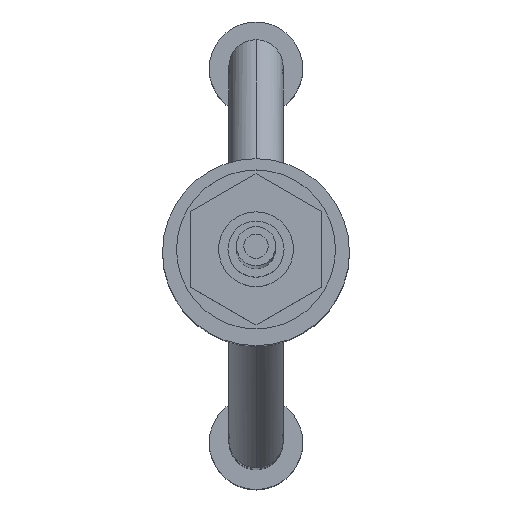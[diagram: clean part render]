
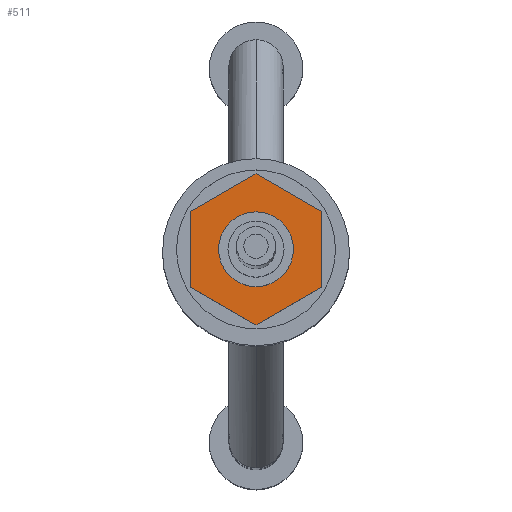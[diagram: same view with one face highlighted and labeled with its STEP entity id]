
A CAD part, top view. The second image highlights one B-rep face of the part: STEP entity #511.
In plain terms, the highlighted planar face has unit normal (0, 0, 1) as drawn and (-1, 0, 0) by its records, which use the part's own axes.
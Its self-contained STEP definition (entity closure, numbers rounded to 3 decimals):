
#486 = ORIENTED_EDGE ( 'NONE', *, *, #487, .T. ) ;
#487 = EDGE_CURVE ( 'NONE', #516, #517, #1680, .T. ) ;
#488 = ORIENTED_EDGE ( 'NONE', *, *, #489, .T. ) ;
#489 = EDGE_CURVE ( 'NONE', #517, #490, #1676, .T. ) ;
#490 = VERTEX_POINT ( 'NONE', #1672 ) ;
#491 = ORIENTED_EDGE ( 'NONE', *, *, #492, .T. ) ;
#492 = EDGE_CURVE ( 'NONE', #490, #493, #1671, .T. ) ;
#493 = VERTEX_POINT ( 'NONE', #1667 ) ;
#494 = ORIENTED_EDGE ( 'NONE', *, *, #495, .T. ) ;
#495 = EDGE_CURVE ( 'NONE', #493, #496, #1666, .T. ) ;
#496 = VERTEX_POINT ( 'NONE', #1662 ) ;
#497 = ORIENTED_EDGE ( 'NONE', *, *, #498, .T. ) ;
#498 = EDGE_CURVE ( 'NONE', #496, #515, #1661, .T. ) ;
#499 = EDGE_LOOP ( 'NONE', ( #553, #554 ) ) ;
#500 = EDGE_CURVE ( 'NONE', #501, #502, #1657, .T. ) ;
#501 = VERTEX_POINT ( 'NONE', #1718 ) ;
#502 = VERTEX_POINT ( 'NONE', #1717 ) ;
#511 = ADVANCED_FACE ( 'NONE', ( #1701, #1700 ), #1699, .T. ) ;
#512 = EDGE_LOOP ( 'NONE', ( #513, #486, #488, #491, #494, #497 ) ) ;
#513 = ORIENTED_EDGE ( 'NONE', *, *, #514, .T. ) ;
#514 = EDGE_CURVE ( 'NONE', #515, #516, #1694, .T. ) ;
#515 = VERTEX_POINT ( 'NONE', #1690 ) ;
#516 = VERTEX_POINT ( 'NONE', #1689 ) ;
#517 = VERTEX_POINT ( 'NONE', #1688 ) ;
#553 = ORIENTED_EDGE ( 'NONE', *, *, #500, .F. ) ;
#554 = ORIENTED_EDGE ( 'NONE', *, *, #555, .F. ) ;
#555 = EDGE_CURVE ( 'NONE', #502, #501, #1766, .T. ) ;
#1655 = CARTESIAN_POINT ( 'NONE',  ( 7.6, 0., 0. ) ) ;
#1656 = AXIS2_PLACEMENT_3D ( 'NONE', #1655, #1720, #1719 ) ;
#1657 = CIRCLE ( 'NONE', #1656, 2. ) ;
#1658 = DIRECTION ( 'NONE',  ( 0., 1., 0. ) ) ;
#1659 = VECTOR ( 'NONE', #1658, 1000. ) ;
#1660 = CARTESIAN_POINT ( 'NONE',  ( 7.6, -2.021, 3.5 ) ) ;
#1661 = LINE ( 'NONE', #1660, #1659 ) ;
#1662 = CARTESIAN_POINT ( 'NONE',  ( 7.6, -2.021, 3.5 ) ) ;
#1663 = DIRECTION ( 'NONE',  ( 0., 0.5, 0.866 ) ) ;
#1664 = VECTOR ( 'NONE', #1663, 1000. ) ;
#1665 = CARTESIAN_POINT ( 'NONE',  ( 7.6, -4.041, 0. ) ) ;
#1666 = LINE ( 'NONE', #1665, #1664 ) ;
#1667 = CARTESIAN_POINT ( 'NONE',  ( 7.6, -4.041, 0. ) ) ;
#1668 = DIRECTION ( 'NONE',  ( 0., -0.5, 0.866 ) ) ;
#1669 = VECTOR ( 'NONE', #1668, 1000. ) ;
#1670 = CARTESIAN_POINT ( 'NONE',  ( 7.6, -2.021, -3.5 ) ) ;
#1671 = LINE ( 'NONE', #1670, #1669 ) ;
#1672 = CARTESIAN_POINT ( 'NONE',  ( 7.6, -2.021, -3.5 ) ) ;
#1673 = DIRECTION ( 'NONE',  ( 0., -1., 0. ) ) ;
#1674 = VECTOR ( 'NONE', #1673, 1000. ) ;
#1675 = CARTESIAN_POINT ( 'NONE',  ( 7.6, 2.021, -3.5 ) ) ;
#1676 = LINE ( 'NONE', #1675, #1674 ) ;
#1677 = DIRECTION ( 'NONE',  ( 0., -0.5, -0.866 ) ) ;
#1678 = VECTOR ( 'NONE', #1677, 1000. ) ;
#1679 = CARTESIAN_POINT ( 'NONE',  ( 7.6, 4.041, 0. ) ) ;
#1680 = LINE ( 'NONE', #1679, #1678 ) ;
#1688 = CARTESIAN_POINT ( 'NONE',  ( 7.6, 2.021, -3.5 ) ) ;
#1689 = CARTESIAN_POINT ( 'NONE',  ( 7.6, 4.041, 0. ) ) ;
#1690 = CARTESIAN_POINT ( 'NONE',  ( 7.6, 2.021, 3.5 ) ) ;
#1691 = DIRECTION ( 'NONE',  ( 0., 0.5, -0.866 ) ) ;
#1692 = VECTOR ( 'NONE', #1691, 1000. ) ;
#1693 = CARTESIAN_POINT ( 'NONE',  ( 7.6, 2.021, 3.5 ) ) ;
#1694 = LINE ( 'NONE', #1693, #1692 ) ;
#1695 = DIRECTION ( 'NONE',  ( 0., -1., 0. ) ) ;
#1696 = DIRECTION ( 'NONE',  ( -1., 0., 0. ) ) ;
#1697 = CARTESIAN_POINT ( 'NONE',  ( 7.6, 4.041, 0. ) ) ;
#1698 = AXIS2_PLACEMENT_3D ( 'NONE', #1697, #1696, #1695 ) ;
#1699 = PLANE ( 'NONE',  #1698 ) ;
#1700 = FACE_BOUND ( 'NONE', #499, .T. ) ;
#1701 = FACE_OUTER_BOUND ( 'NONE', #512, .T. ) ;
#1717 = CARTESIAN_POINT ( 'NONE',  ( 7.6, -2., 0. ) ) ;
#1718 = CARTESIAN_POINT ( 'NONE',  ( 7.6, 2., 0. ) ) ;
#1719 = DIRECTION ( 'NONE',  ( 0., -1., 0. ) ) ;
#1720 = DIRECTION ( 'NONE',  ( -1., 0., 0. ) ) ;
#1762 = DIRECTION ( 'NONE',  ( 0., -1., 0. ) ) ;
#1763 = DIRECTION ( 'NONE',  ( -1., 0., 0. ) ) ;
#1764 = CARTESIAN_POINT ( 'NONE',  ( 7.6, 0., 0. ) ) ;
#1765 = AXIS2_PLACEMENT_3D ( 'NONE', #1764, #1763, #1762 ) ;
#1766 = CIRCLE ( 'NONE', #1765, 2. ) ;
